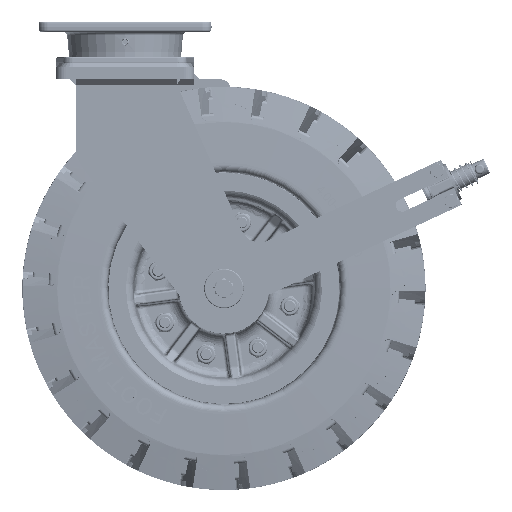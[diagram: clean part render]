
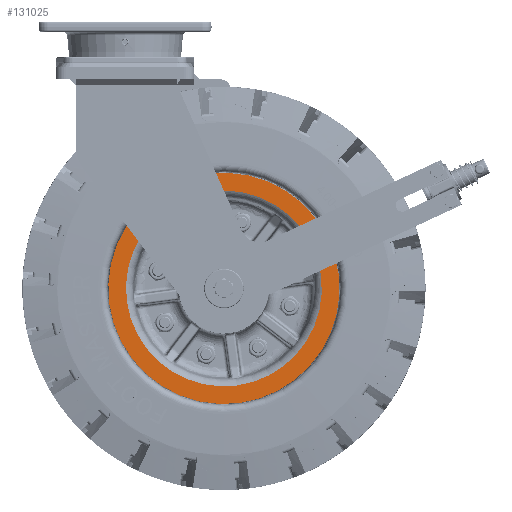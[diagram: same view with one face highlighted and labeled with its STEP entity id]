
A CAD part, front view. The second image highlights one B-rep face of the part: STEP entity #131025.
In plain terms, the highlighted planar face has unit normal (0, -1, 0).
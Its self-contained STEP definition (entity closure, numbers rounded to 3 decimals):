
#24710=FACE_BOUND('',#36330,.T.);
#25903=PLANE('',#138863);
#28901=FACE_OUTER_BOUND('',#36329,.T.);
#36329=EDGE_LOOP('',(#97297,#97298));
#36330=EDGE_LOOP('',(#97299,#97300));
#52165=CIRCLE('',#138864,116.962);
#52166=CIRCLE('',#138865,116.962);
#52167=CIRCLE('',#138866,99.063);
#52168=CIRCLE('',#138867,99.063);
#57748=VERTEX_POINT('',#184715);
#57749=VERTEX_POINT('',#184716);
#57750=VERTEX_POINT('',#184719);
#57751=VERTEX_POINT('',#184720);
#72556=EDGE_CURVE('',#57748,#57749,#52165,.T.);
#72557=EDGE_CURVE('',#57749,#57748,#52166,.T.);
#72558=EDGE_CURVE('',#57750,#57751,#52167,.T.);
#72559=EDGE_CURVE('',#57751,#57750,#52168,.T.);
#97297=ORIENTED_EDGE('',*,*,#72556,.F.);
#97298=ORIENTED_EDGE('',*,*,#72557,.F.);
#97299=ORIENTED_EDGE('',*,*,#72558,.F.);
#97300=ORIENTED_EDGE('',*,*,#72559,.F.);
#131025=ADVANCED_FACE('',(#28901,#24710),#25903,.F.);
#138863=AXIS2_PLACEMENT_3D('',#184714,#151915,#151916);
#138864=AXIS2_PLACEMENT_3D('',#184717,#151917,#151918);
#138865=AXIS2_PLACEMENT_3D('',#184718,#151919,#151920);
#138866=AXIS2_PLACEMENT_3D('',#184721,#151921,#151922);
#138867=AXIS2_PLACEMENT_3D('',#184722,#151923,#151924);
#151915=DIRECTION('center_axis',(0.,1.,0.));
#151916=DIRECTION('ref_axis',(-0.131,0.,
0.991));
#151917=DIRECTION('center_axis',(0.,1.,0.));
#151918=DIRECTION('ref_axis',(0.131,0.,-0.991));
#151919=DIRECTION('center_axis',(0.,1.,0.));
#151920=DIRECTION('ref_axis',(0.131,0.,-0.991));
#151921=DIRECTION('center_axis',(0.,-1.,0.));
#151922=DIRECTION('ref_axis',(0.131,0.,-0.991));
#151923=DIRECTION('center_axis',(0.,-1.,0.));
#151924=DIRECTION('ref_axis',(0.131,0.,-0.991));
#184714=CARTESIAN_POINT('Origin',(115.267,-118.,-380.461));
#184715=CARTESIAN_POINT('',(115.267,-118.,-380.461));
#184716=CARTESIAN_POINT('',(84.733,-118.,-148.539));
#184717=CARTESIAN_POINT('Origin',(100.,-118.,-264.5));
#184718=CARTESIAN_POINT('Origin',(100.,-118.,-264.5));
#184719=CARTESIAN_POINT('',(112.93,-118.,-362.716));
#184720=CARTESIAN_POINT('',(87.07,-118.,-166.284));
#184721=CARTESIAN_POINT('Origin',(100.,-118.,-264.5));
#184722=CARTESIAN_POINT('Origin',(100.,-118.,-264.5));
